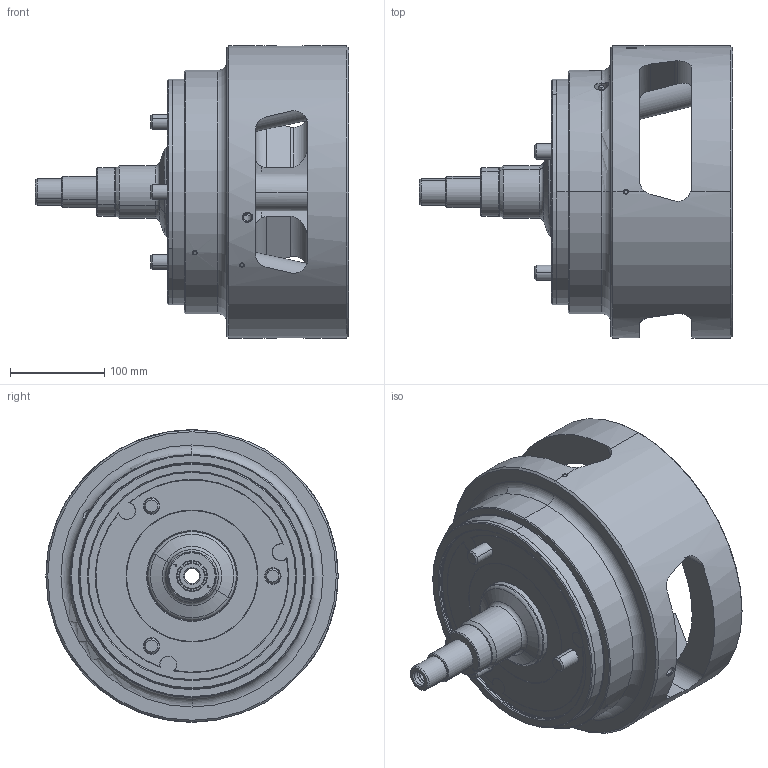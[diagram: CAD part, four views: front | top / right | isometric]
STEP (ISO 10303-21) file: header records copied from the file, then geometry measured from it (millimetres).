
FILE_DESCRIPTION (( 'STEP AP214' ), '1' );
FILE_NAME ('PUD12_OC.STEP', '2019-10-16T07:25:23', ( '' ), ( '' ), 'SwSTEP 2.0', 'SolidWorks 2017', '' );
FILE_SCHEMA (( 'AUTOMOTIVE_DESIGN' ));
Length unit declared in the file: millimetre
Products named in the file (4): 0030112030; 61P835631; PUD12_OC; Part22^61P278439_dummy
Assembly tree (7 placements, depth 2):
  PUD12_OC
    61P835631  x3
    0030112030  x3
    Part22^61P278439_dummy
Bounding box: 332 x 310 x 310 mm (x, y, z)
Volume: 6957964.6 mm3; surface area: 529631.8 mm2
Topology: 9 solids, 9 shells, 2763 faces, 7295 edges, 4731 vertices
Faces by surface type: plane 1473, bspline 774, cone 251, cylinder 211, torus 54
Entity records: 118468 total; most frequent: CARTESIAN_POINT 57356, ORIENTED_EDGE 14062, DIRECTION 9697, EDGE_CURVE 7031, VERTEX_POINT 4597, LINE 4591, VECTOR 4591, EDGE_LOOP 2888
